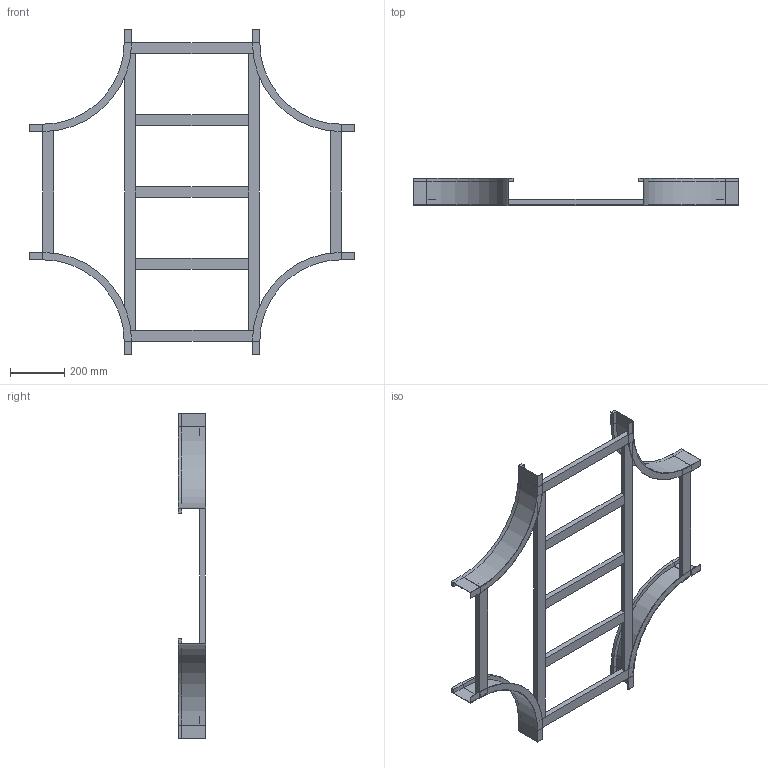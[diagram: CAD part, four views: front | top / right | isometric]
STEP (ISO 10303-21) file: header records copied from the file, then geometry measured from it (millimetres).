
FILE_DESCRIPTION (( 'STEP AP214' ), '1' );
FILE_NAME ('B2_17B3D500.step', '2025-02-21T15:55:41', ( '' ), ( '' ), 'SwSTEP 2.0', 'SolidWorks 2023', '' );
FILE_SCHEMA (( 'AUTOMOTIVE_DESIGN' ));
Length unit declared in the file: millimetre
Products named in the file (5): TRAVERSINO_INTERMEDIO_R300+500; B2_TRAVERSINO_LONG._R300+500; TRAVERSINO_500; B2_17B3D500; B2_LONGH.INTERNO 90°_H100_R300
Assembly tree (13 placements, depth 2):
  B2_17B3D500
    B2_LONGH.INTERNO 90°_H100_R300  x4
    TRAVERSINO_500  x4
    B2_TRAVERSINO_LONG._R300+500  x2
    TRAVERSINO_INTERMEDIO_R300+500  x3
Bounding box: 1200 x 100 x 1200 mm (x, y, z)
Volume: 5294096 mm3; surface area: 1318288.5 mm2
Topology: 13 solids, 13 shells, 158 faces, 332 edges, 200 vertices
Faces by surface type: plane 142, cylinder 16
Entity records: 1362 total; most frequent: DIRECTION 220, CARTESIAN_POINT 208, ORIENTED_EDGE 184, EDGE_CURVE 92, LINE 84, VECTOR 84, AXIS2_PLACEMENT_3D 68, VERTEX_POINT 56
